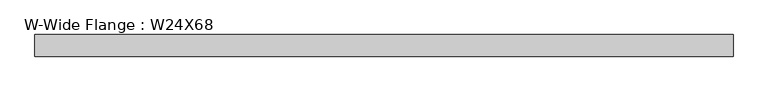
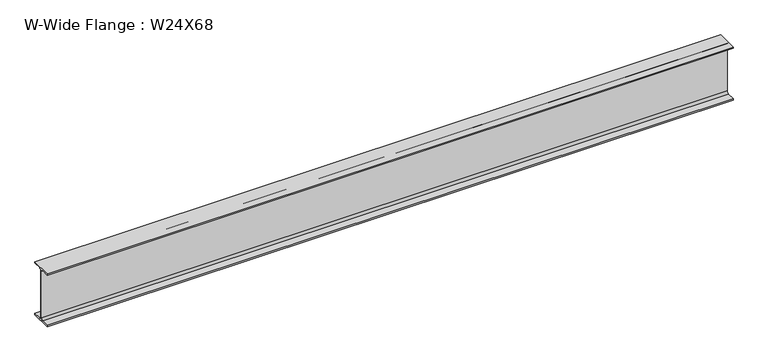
"""IFC4 building model written with IfcOpenShell, lengths in millimetres: beam geometry, W-Wide Flange : W24X68."""

import ifcopenshell
import ifcopenshell.guid

model = None  # the IFC model being written
_history = None  # IfcOwnerHistory: only IFC2X3 demands one
_inside = {}  # id of a spatial element -> (the spatial element, [elements in it])
_under = {}  # id of a project, library or spatial element -> (it, [spatial elements below it])
_declared = {}  # id of a project -> (the project, [libraries it declares])
_typed = {}  # id of a type object -> (the type object, [elements of that type])
_made_of = {}  # id of a material, layer set ... -> (it, [elements and type objects made of it])


def new_model(schema):
    """Start an empty IFC model of exactly this schema.

    Asked for "IFC4X3", IfcOpenShell would pick the latest addendum, in which some entities
    have other attributes; the version numbers below select the first issue.
    IFC2X3 requires an IfcOwnerHistory on every rooted entity: one is made here for all.
    """
    global model, _history
    if schema == "IFC4X3":
        model = ifcopenshell.file(schema_version=(4, 3, 0, 0))
    else:
        model = ifcopenshell.file(schema=schema)
    _inside.clear()
    _under.clear()
    _declared.clear()
    _typed.clear()
    _made_of.clear()
    _history = None
    if model.schema == "IFC2X3":
        org = make("IfcOrganization", Name="unknown")
        user = make(
            "IfcPersonAndOrganization",
            ThePerson=make("IfcPerson", FamilyName="unknown"),
            TheOrganization=org,
        )
        app = make(
            "IfcApplication",
            ApplicationDeveloper=org,
            Version="unknown",
            ApplicationFullName="unknown",
            ApplicationIdentifier="unknown",
        )
        _history = make(
            "IfcOwnerHistory",
            OwningUser=user,
            OwningApplication=app,
            ChangeAction="ADDED",
            CreationDate=0,
        )
    return model


def make(cls, **values):
    """One entity of the class cls with the attributes given. An attribute that is None is left unset."""
    return model.create_entity(
        cls, **{name: value for name, value in values.items() if value is not None}
    )


def rooted(cls, **values):
    """An entity with a GlobalId (a new one), such as an element, a storey or a relation."""
    return make(cls, GlobalId=ifcopenshell.guid.new(), OwnerHistory=_history, **values)


def si_unit(unit_type, name, prefix=None):
    """IfcSIUnit, for example si_unit("LENGTHUNIT", "METRE", prefix="MILLI")."""
    return make("IfcSIUnit", UnitType=unit_type, Prefix=prefix, Name=name)


def assignment(units):
    """IfcUnitAssignment: the units of a project."""
    return None if units is None else make("IfcUnitAssignment", Units=units)


def point(xyz):
    """IfcCartesianPoint."""
    return None if xyz is None else make("IfcCartesianPoint", Coordinates=xyz)


def direction(xyz):
    """IfcDirection."""
    return None if xyz is None else make("IfcDirection", DirectionRatios=xyz)


def frame(location, z_axis=None, x_axis=None):
    """IfcAxis2Placement3D, a coordinate frame: its origin and axes. An axis left out is left unset."""
    return make(
        "IfcAxis2Placement3D",
        Location=point(location),
        Axis=direction(z_axis),
        RefDirection=direction(x_axis),
    )


def frame_2d(location, x_axis=None):
    """IfcAxis2Placement2D, a coordinate frame in the plane: its origin and x axis."""
    return make(
        "IfcAxis2Placement2D", Location=point(location), RefDirection=direction(x_axis)
    )


def origin():
    """The frame at (0, 0, 0) with its axes left unset."""
    return frame((0.0, 0.0, 0.0))


def place(relative_to, where):
    """IfcLocalPlacement: puts the frame where relative to a parent placement (None: the world)."""
    return make(
        "IfcLocalPlacement", PlacementRelTo=relative_to, RelativePlacement=where
    )


def context(
    kind, dimensions, precision=None, world=None, true_north=None, identifier=None
):
    """IfcGeometricRepresentationContext, for example the 3D "Model" context."""
    return make(
        "IfcGeometricRepresentationContext",
        ContextIdentifier=identifier,
        ContextType=kind,
        CoordinateSpaceDimension=dimensions,
        Precision=precision,
        WorldCoordinateSystem=world,
        TrueNorth=true_north,
    )


def project(units=None, contexts=None):
    """IfcProject with its units and contexts."""
    return rooted(
        "IfcProject",
        Name="project",
        RepresentationContexts=contexts,
        UnitsInContext=assignment(units),
    )


def spatial(cls, under=None, at=None, **own):
    """A site, building, storey or space (cls), placed at a placement, below another one or the project."""
    s = rooted(cls, ObjectPlacement=at, **own)
    if under is not None:
        _under.setdefault(under.id(), (under, []))[1].append(s)
    return s


def polyline(points):
    """IfcPolyline through the points."""
    return make("IfcPolyline", Points=[point(p) for p in points])


def circle_curve(where, radius):
    """IfcCircle in the frame where."""
    return make("IfcCircle", Position=where, Radius=radius)


def trimmed(basis, trim1, trim2, sense, master):
    """IfcTrimmedCurve: the piece of a basis curve between two trims."""
    return make(
        "IfcTrimmedCurve",
        BasisCurve=basis,
        Trim1=trim1,
        Trim2=trim2,
        SenseAgreement=sense,
        MasterRepresentation=master,
    )


def segment(curve, same_sense, transition):
    """IfcCompositeCurveSegment."""
    return make(
        "IfcCompositeCurveSegment",
        Transition=transition,
        SameSense=same_sense,
        ParentCurve=curve,
    )


def composite_curve(segments, self_intersect=None):
    """IfcCompositeCurve: segments joined end to end."""
    return make("IfcCompositeCurve", Segments=segments, SelfIntersect=self_intersect)


def outline(outer, holes=None, kind="AREA"):
    """IfcArbitraryClosedProfileDef: a profile drawn as a closed curve; with holes, ...WithVoids."""
    if holes is None:
        return make("IfcArbitraryClosedProfileDef", ProfileType=kind, OuterCurve=outer)
    return make(
        "IfcArbitraryProfileDefWithVoids",
        ProfileType=kind,
        OuterCurve=outer,
        InnerCurves=holes,
    )


def extrude(swept, where, along, depth):
    """IfcExtrudedAreaSolid: the profile swept, set in the frame where, extruded along a direction by depth."""
    return make(
        "IfcExtrudedAreaSolid",
        SweptArea=swept,
        Position=where,
        ExtrudedDirection=direction(along),
        Depth=depth,
    )


def shape(context_of_items, identifier, shape_type, items):
    """IfcShapeRepresentation: the items that make up one representation, for example the "Body"."""
    return make(
        "IfcShapeRepresentation",
        ContextOfItems=context_of_items,
        RepresentationIdentifier=identifier,
        RepresentationType=shape_type,
        Items=items,
    )


def source(mapping_origin, context_of_items, identifier, shape_type, items):
    """IfcRepresentationMap: a shape defined once, which mapped items show again and again."""
    return make(
        "IfcRepresentationMap",
        MappingOrigin=mapping_origin,
        MappedRepresentation=shape(context_of_items, identifier, shape_type, items),
    )


def transform(
    local_origin,
    x_axis=None,
    y_axis=None,
    z_axis=None,
    scale=None,
    scale2=None,
    scale3=None,
    uniform=True,
):
    """IfcCartesianTransformationOperator3D, or its non-uniform kind. x_axis, y_axis, z_axis: its Axis1, 2, 3."""
    if uniform:
        return make(
            "IfcCartesianTransformationOperator3D",
            Axis1=direction(x_axis),
            Axis2=direction(y_axis),
            LocalOrigin=point(local_origin),
            Scale=scale,
            Axis3=direction(z_axis),
        )
    return make(
        "IfcCartesianTransformationOperator3DnonUniform",
        Axis1=direction(x_axis),
        Axis2=direction(y_axis),
        LocalOrigin=point(local_origin),
        Scale=scale,
        Axis3=direction(z_axis),
        Scale2=scale2,
        Scale3=scale3,
    )


def mapped(mapping_source, mapping_target):
    """IfcMappedItem: shows the shape of a source again, moved by a transform."""
    return make(
        "IfcMappedItem", MappingSource=mapping_source, MappingTarget=mapping_target
    )


def made_of(thing, what):
    """Note that an element or type object is made of a material, layer set ...; save() writes the relation."""
    if what is not None:
        _made_of.setdefault(what.id(), (what, []))[1].append(thing)
    return thing


def element(
    cls,
    number,
    at=None,
    inside=None,
    cuts=None,
    type_object=None,
    material=None,
    context=None,
    identifier="Body",
    shape_type=None,
    held_by="IfcProductDefinitionShape",
    body=None,
    shapes=None,
    **own,
):
    """One element of the class cls, such as IfcWall. Its Tag is "e" and its number.

    at: its placement. inside: the storey or other place that contains it. cuts: it is an
    opening in that element (IfcRelVoidsElement). A single representation is given by context,
    identifier, shape_type and body (its items); several are given by shapes. held_by: the class
    of the entity that holds the representations. save() writes the other relations.
    """
    e = rooted(cls, Tag="e%d" % number, ObjectPlacement=at, **own)
    if body is not None:
        shapes = [shape(context, identifier, shape_type, body)]
    if shapes is not None:
        e.Representation = make(held_by, Representations=shapes)
    if inside is not None:
        _inside.setdefault(inside.id(), (inside, []))[1].append(e)
    if cuts is not None:
        rooted(
            "IfcRelVoidsElement", RelatingBuildingElement=cuts, RelatedOpeningElement=e
        )
    if type_object is not None:
        _typed.setdefault(type_object.id(), (type_object, []))[1].append(e)
    return made_of(e, material)


def aggregate(whole, parts):
    """IfcRelAggregates: a whole, such as a stair, and the parts it consists of."""
    return rooted("IfcRelAggregates", RelatingObject=whole, RelatedObjects=parts)


def save(model, path):
    """Write the relations noted so far, then the file.

    IfcRelAggregates (storeys below a building ...), IfcRelContainedInSpatialStructure (elements
    in a storey), IfcRelDefinesByType, IfcRelAssociatesMaterial and IfcRelDeclares: one each for
    every whole, place, type object, material and project.
    """
    for whole, parts in _under.values():
        aggregate(whole, parts)
    for where, things in _inside.values():
        rooted(
            "IfcRelContainedInSpatialStructure",
            RelatedElements=things,
            RelatingStructure=where,
        )
    for kind, things in _typed.values():
        rooted("IfcRelDefinesByType", RelatedObjects=things, RelatingType=kind)
    for what, things in _made_of.values():
        rooted("IfcRelAssociatesMaterial", RelatedObjects=things, RelatingMaterial=what)
    for by, libraries in _declared.values():
        rooted("IfcRelDeclares", RelatingContext=by, RelatedDefinitions=libraries)
    model.write(path)


def w_wide_flange_w24x68_577b7746(model_context):
    return source(origin(), model_context, "Body", "SweptSolid", [
        extrude(outline(composite_curve([segment(polyline([(113.919, -286.131), (113.919, -300.99), (-113.919, -300.99), (-113.919, -286.131), (-28.5115, -286.131)]), True, "CONTINUOUS"), segment(trimmed(circle_curve(frame_2d((-28.5115, -262.89)), 23.241), [point((-28.5115, -286.131))], [point((-5.2705, -262.89))], True, "CARTESIAN"), True, "CONTINUOUS"), segment(polyline([(-5.2705, -262.89), (-5.2705, 262.89)]), True, "CONTINUOUS"), segment(trimmed(circle_curve(frame_2d((-28.5115, 262.89)), 23.241), [point((-5.2705, 262.89))], [point((-28.5115, 286.131))], True, "CARTESIAN"), True, "CONTINUOUS"), segment(polyline([(-28.5115, 286.131), (-113.919, 286.131), (-113.919, 300.99), (113.919, 300.99), (113.919, 286.131), (28.5115, 286.131)]), True, "CONTINUOUS"), segment(trimmed(circle_curve(frame_2d((28.5115, 262.89)), 23.241), [point((28.5115, 286.131))], [point((5.2705, 262.89))], True, "CARTESIAN"), True, "CONTINUOUS"), segment(polyline([(5.2705, 262.89), (5.2705, -262.89)]), True, "CONTINUOUS"), segment(trimmed(circle_curve(frame_2d((28.5115, -262.89)), 23.241), [point((5.2705, -262.89))], [point((28.5115, -286.131))], True, "CARTESIAN"), True, "CONTINUOUS"), segment(polyline([(28.5115, -286.131), (113.919, -286.131)]), True, "CONTINUOUS")], self_intersect=False)), frame((-3683.381, 0.0, 0.0), z_axis=(1.0, 0.0, 0.0), x_axis=(0.0, 1.0, 0.0)), (0.0, 0.0, 1.0), 7366.762),
    ])


if __name__ == "__main__":
    model = new_model("IFC4")
    model_context = context("Model", 3, world=origin())
    ifc_project = project(units=[si_unit("LENGTHUNIT", "METRE", prefix="MILLI")], contexts=[model_context])
    site = spatial("IfcSite", under=ifc_project)
    building = spatial("IfcBuilding", under=site)
    placement = place(None, origin())
    w_wide_flange_w24x68_shape = w_wide_flange_w24x68_577b7746(model_context)
    element("IfcBeam", 1, ObjectType="W-Wide Flange : W24X68", at=placement, inside=building, context=model_context, shape_type="MappedRepresentation", body=[
        mapped(w_wide_flange_w24x68_shape, transform((0.0, 0.0, 0.0), x_axis=(1.0, 0.0, 0.0), y_axis=(0.0, 1.0, 0.0), z_axis=(0.0, 0.0, 1.0))),
    ])
    save(model, "model.ifc")
